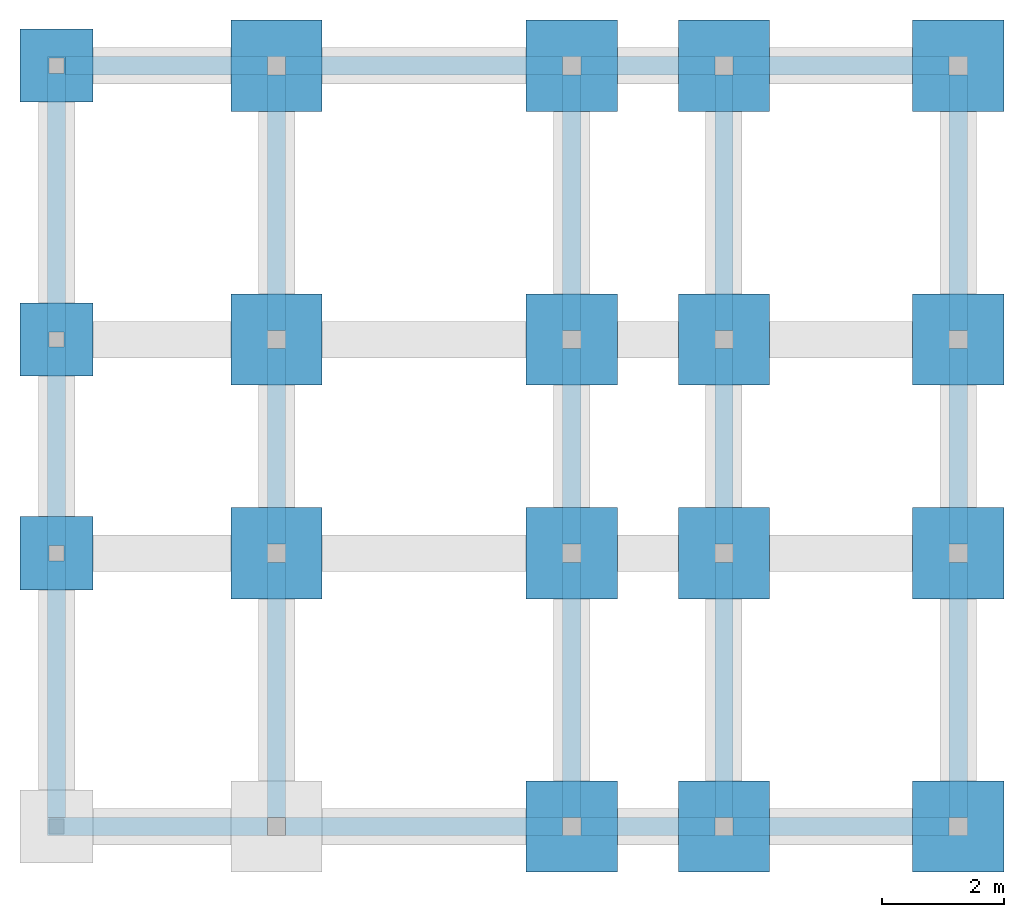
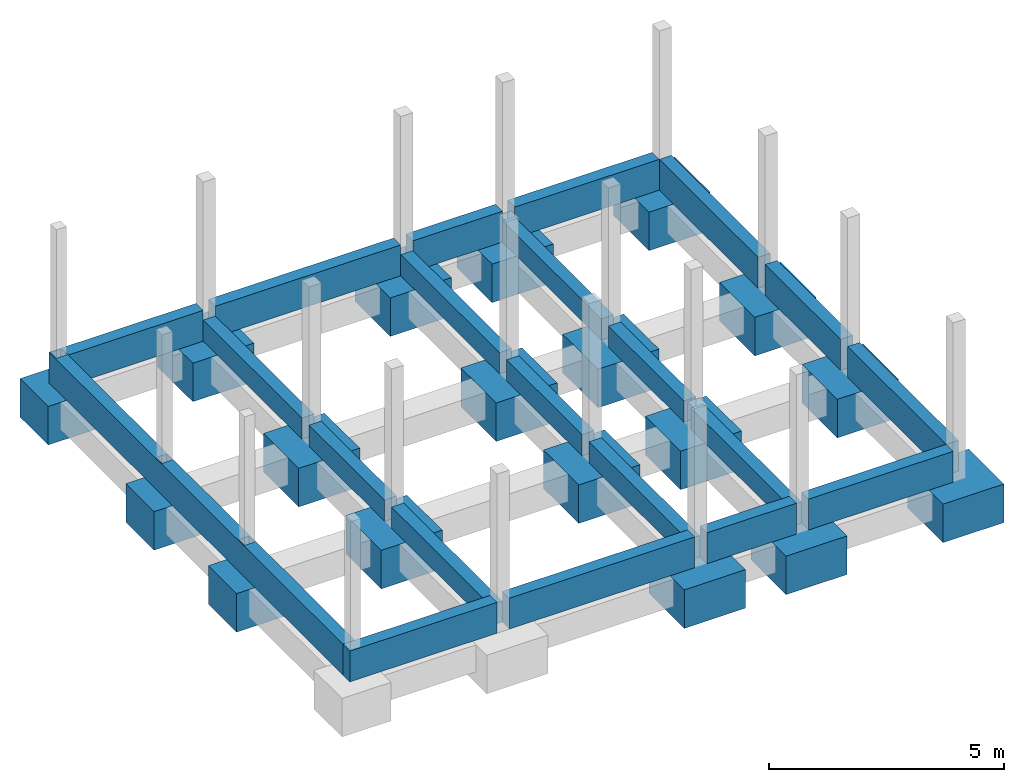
# One storey, part 2 of 2: 18 slabs, 7 walls, 17 openings.
"""IFC2X3 building model written with IfcOpenShell, lengths in metres."""

from ifc_helpers import new_model, entity, si_unit, converted_unit, derived_unit, direction, frame, frame_2d, origin, origin_2d_with_axis, place, context, subcontext, project, spatial, polyline, rectangle, extrude, clip, bounded_halfspace, material, layer, layer_set, layer_usage, type_object, element, save


model = new_model("IFC2X3")

# Units and contexts
model_context = context("Model", 3, precision=1e-05, world=origin(), true_north=direction((6.12303176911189e-17, 1.0)))
context_of_model = context(None, 3, precision=1e-05, world=origin(), true_north=direction((6.12303176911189e-17, 1.0)))
body_context = subcontext(model_context, "Body", "Model", "MODEL_VIEW")
ifc_project = project(units=[si_unit("LENGTHUNIT", "METRE"), si_unit("AREAUNIT", "SQUARE_METRE"), si_unit("VOLUMEUNIT", "CUBIC_METRE"), converted_unit("PLANEANGLEUNIT", "DEGREE", entity("IfcRatioMeasure", 0.0174532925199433), si_unit("PLANEANGLEUNIT", "RADIAN"), dimensions=[0, 0, 0, 0, 0, 0, 0]), si_unit("MASSUNIT", "GRAM", prefix="KILO"), si_unit("TIMEUNIT", "SECOND"), si_unit("FREQUENCYUNIT", "HERTZ"), si_unit("THERMODYNAMICTEMPERATUREUNIT", "DEGREE_CELSIUS"), derived_unit("THERMALTRANSMITTANCEUNIT", [(si_unit("MASSUNIT", "GRAM", prefix="KILO"), 1), (si_unit("THERMODYNAMICTEMPERATUREUNIT", "KELVIN"), -1), (si_unit("TIMEUNIT", "SECOND"), -3)]), derived_unit("VOLUMETRICFLOWRATEUNIT", [(si_unit("LENGTHUNIT", "METRE"), 3), (si_unit("TIMEUNIT", "SECOND"), -1)]), si_unit("ELECTRICCURRENTUNIT", "AMPERE"), si_unit("ELECTRICVOLTAGEUNIT", "VOLT"), si_unit("POWERUNIT", "WATT"), si_unit("FORCEUNIT", "NEWTON", prefix="KILO"), si_unit("ILLUMINANCEUNIT", "LUX"), si_unit("LUMINOUSFLUXUNIT", "LUMEN"), si_unit("LUMINOUSINTENSITYUNIT", "CANDELA"), si_unit("PRESSUREUNIT", "PASCAL")], contexts=[model_context, context_of_model])

# Site, building, storey
site_placement = place(None, origin())
site = spatial("IfcSite", under=ifc_project, at=site_placement, Name="Default", CompositionType="ELEMENT")
building_placement = place(site_placement, origin())
building = spatial("IfcBuilding", under=site, at=building_placement, CompositionType="ELEMENT")
storey_placement = place(building_placement, frame((0.0, 0.0, -0.68)))
storey = spatial("IfcBuildingStorey", under=building, at=storey_placement, Name="00.ES.CIMENTACIÓN", CompositionType="ELEMENT", Elevation=-0.68)

# Slabs
ifc_material_1 = material(Name="Hormigón - Hormigón moldeado in situ")
slab_1_placement = place(storey_placement, origin())
element("IfcSlab", 1, at=slab_1_placement, inside=storey, material=ifc_material_1, Name="Zapata-Rectangular:1500 x 1500 x 1000 mm", ObjectType="Zapata-Rectangular:1500 x 1500 x 1000 mm", PredefinedType="FLOOR", context=body_context, shape_type="SweptSolid", body=[
    extrude(rectangle(XDim=1.5, YDim=1.5, at=frame_2d((-2.22044604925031e-16, -1.0547118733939e-15), x_axis=(1.0, 0.0))), frame((4.21500000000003, 13.1, -1.0), z_axis=(0.0, 0.0, 1.0), x_axis=(-1.0, 0.0, 0.0)), (0.0, 0.0, 1.0), 1.0),
])
slab_2_placement = place(storey_placement, origin())
element("IfcSlab", 2, at=slab_2_placement, inside=storey, material=ifc_material_1, Name="Zapata-Rectangular:1500 x 1500 x 1000 mm", ObjectType="Zapata-Rectangular:1500 x 1500 x 1000 mm", PredefinedType="FLOOR", context=body_context, shape_type="SweptSolid", body=[
    extrude(rectangle(XDim=1.5, YDim=1.5, at=frame_2d((-1.0547118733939e-15, 1.0547118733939e-15), x_axis=(1.0, 0.0))), frame((9.065, 13.1, -1.0), z_axis=(0.0, 0.0, 1.0), x_axis=(-1.0, 0.0, 0.0)), (0.0, 0.0, 1.0), 1.0),
])
slab_3_placement = place(storey_placement, origin())
element("IfcSlab", 3, at=slab_3_placement, inside=storey, material=ifc_material_1, Name="Zapata-Rectangular:1500 x 1500 x 1000 mm", ObjectType="Zapata-Rectangular:1500 x 1500 x 1000 mm", PredefinedType="FLOOR", context=body_context, shape_type="SweptSolid", body=[
    extrude(rectangle(XDim=1.5, YDim=1.5, at=frame_2d((-1.0547118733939e-15, 1.0547118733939e-15), x_axis=(1.0, 0.0))), frame((11.565, 13.1, -1.0), z_axis=(0.0, 0.0, 1.0), x_axis=(-1.0, 0.0, 0.0)), (0.0, 0.0, 1.0), 1.0),
])
slab_4_placement = place(storey_placement, origin())
element("IfcSlab", 4, at=slab_4_placement, inside=storey, material=ifc_material_1, Name="Zapata-Rectangular:1500 x 1500 x 1000 mm", ObjectType="Zapata-Rectangular:1500 x 1500 x 1000 mm", PredefinedType="FLOOR", context=body_context, shape_type="SweptSolid", body=[
    extrude(rectangle(XDim=1.5, YDim=1.5, at=frame_2d((-1.0547118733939e-15, 1.0547118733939e-15), x_axis=(1.0, 0.0))), frame((15.415, 13.1, -1.0), z_axis=(0.0, 0.0, 1.0), x_axis=(-1.0, 0.0, 0.0)), (0.0, 0.0, 1.0), 1.0),
])
slab_5_placement = place(storey_placement, origin())
element("IfcSlab", 5, at=slab_5_placement, inside=storey, material=ifc_material_1, Name="Zapata-Rectangular:1500 x 1500 x 1000 mm", ObjectType="Zapata-Rectangular:1500 x 1500 x 1000 mm", PredefinedType="FLOOR", context=body_context, shape_type="SweptSolid", body=[
    extrude(rectangle(XDim=1.5, YDim=1.5, at=origin_2d_with_axis()), frame((4.21500000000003, 8.60000000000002, -1.0), z_axis=(0.0, 0.0, 1.0), x_axis=(-1.0, 0.0, 0.0)), (0.0, 0.0, 1.0), 1.0),
])
slab_6_placement = place(storey_placement, origin())
element("IfcSlab", 6, at=slab_6_placement, inside=storey, material=ifc_material_1, Name="Zapata-Rectangular:1500 x 1500 x 1000 mm", ObjectType="Zapata-Rectangular:1500 x 1500 x 1000 mm", PredefinedType="FLOOR", context=body_context, shape_type="SweptSolid", body=[
    extrude(rectangle(XDim=1.5, YDim=1.5, at=origin_2d_with_axis()), frame((9.065, 8.60000000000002, -1.0), z_axis=(0.0, 0.0, 1.0), x_axis=(-1.0, 0.0, 0.0)), (0.0, 0.0, 1.0), 1.0),
])
slab_7_placement = place(storey_placement, origin())
element("IfcSlab", 7, at=slab_7_placement, inside=storey, material=ifc_material_1, Name="Zapata-Rectangular:1500 x 1500 x 1000 mm", ObjectType="Zapata-Rectangular:1500 x 1500 x 1000 mm", PredefinedType="FLOOR", context=body_context, shape_type="SweptSolid", body=[
    extrude(rectangle(XDim=1.5, YDim=1.5, at=frame_2d((1.0547118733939e-15, 0.0), x_axis=(1.0, 0.0))), frame((11.565, 8.60000000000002, -1.0), z_axis=(0.0, 0.0, 1.0), x_axis=(-1.0, 0.0, 0.0)), (0.0, 0.0, 1.0), 1.0),
])
slab_8_placement = place(storey_placement, origin())
element("IfcSlab", 8, at=slab_8_placement, inside=storey, material=ifc_material_1, Name="Zapata-Rectangular:1500 x 1500 x 1000 mm", ObjectType="Zapata-Rectangular:1500 x 1500 x 1000 mm", PredefinedType="FLOOR", context=body_context, shape_type="SweptSolid", body=[
    extrude(rectangle(XDim=1.5, YDim=1.5, at=frame_2d((1.0547118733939e-15, 0.0), x_axis=(1.0, 0.0))), frame((15.415, 8.60000000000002, -1.0), z_axis=(0.0, 0.0, 1.0), x_axis=(-1.0, 0.0, 0.0)), (0.0, 0.0, 1.0), 1.0),
])
slab_9_placement = place(storey_placement, origin())
element("IfcSlab", 9, at=slab_9_placement, inside=storey, material=ifc_material_1, Name="Zapata-Rectangular:1500 x 1500 x 1000 mm", ObjectType="Zapata-Rectangular:1500 x 1500 x 1000 mm", PredefinedType="FLOOR", context=body_context, shape_type="SweptSolid", body=[
    extrude(rectangle(XDim=1.5, YDim=1.5, at=frame_2d((0.0, 2.77555756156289e-16), x_axis=(1.0, 0.0))), frame((4.21500000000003, 5.09006108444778, -1.0), z_axis=(0.0, 0.0, 1.0), x_axis=(-1.0, 0.0, 0.0)), (0.0, 0.0, 1.0), 1.0),
])
slab_10_placement = place(storey_placement, origin())
element("IfcSlab", 10, at=slab_10_placement, inside=storey, material=ifc_material_1, Name="Zapata-Rectangular:1500 x 1500 x 1000 mm", ObjectType="Zapata-Rectangular:1500 x 1500 x 1000 mm", PredefinedType="FLOOR", context=body_context, shape_type="SweptSolid", body=[
    extrude(rectangle(XDim=1.5, YDim=1.5, at=frame_2d((0.0, 2.77555756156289e-16), x_axis=(1.0, 0.0))), frame((9.065, 5.09006108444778, -1.0), z_axis=(0.0, 0.0, 1.0), x_axis=(-1.0, 0.0, 0.0)), (0.0, 0.0, 1.0), 1.0),
])
slab_11_placement = place(storey_placement, origin())
element("IfcSlab", 11, at=slab_11_placement, inside=storey, material=ifc_material_1, Name="Zapata-Rectangular:1500 x 1500 x 1000 mm", ObjectType="Zapata-Rectangular:1500 x 1500 x 1000 mm", PredefinedType="FLOOR", context=body_context, shape_type="SweptSolid", body=[
    extrude(rectangle(XDim=1.5, YDim=1.5, at=frame_2d((1.0547118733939e-15, 2.77555756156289e-16), x_axis=(1.0, 0.0))), frame((11.565, 5.09006108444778, -1.0), z_axis=(0.0, 0.0, 1.0), x_axis=(-1.0, 0.0, 0.0)), (0.0, 0.0, 1.0), 1.0),
])
slab_12_placement = place(storey_placement, origin())
element("IfcSlab", 12, at=slab_12_placement, inside=storey, material=ifc_material_1, Name="Zapata-Rectangular:1500 x 1500 x 1000 mm", ObjectType="Zapata-Rectangular:1500 x 1500 x 1000 mm", PredefinedType="FLOOR", context=body_context, shape_type="SweptSolid", body=[
    extrude(rectangle(XDim=1.5, YDim=1.5, at=frame_2d((1.0547118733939e-15, 2.77555756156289e-16), x_axis=(1.0, 0.0))), frame((15.415, 5.09006108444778, -1.0), z_axis=(0.0, 0.0, 1.0), x_axis=(-1.0, 0.0, 0.0)), (0.0, 0.0, 1.0), 1.0),
])
slab_13_placement = place(storey_placement, origin())
element("IfcSlab", 13, at=slab_13_placement, inside=storey, material=ifc_material_1, Name="Zapata-Rectangular:1500 x 1500 x 1000 mm", ObjectType="Zapata-Rectangular:1500 x 1500 x 1000 mm", PredefinedType="FLOOR", context=body_context, shape_type="SweptSolid", body=[
    extrude(rectangle(XDim=1.5, YDim=1.5, at=origin_2d_with_axis()), frame((9.065, 0.600000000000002, -1.0), z_axis=(0.0, 0.0, 1.0), x_axis=(-1.0, 0.0, 0.0)), (0.0, 0.0, 1.0), 1.0),
])
slab_14_placement = place(storey_placement, origin())
element("IfcSlab", 14, at=slab_14_placement, inside=storey, material=ifc_material_1, Name="Zapata-Rectangular:1500 x 1500 x 1000 mm", ObjectType="Zapata-Rectangular:1500 x 1500 x 1000 mm", PredefinedType="FLOOR", context=body_context, shape_type="SweptSolid", body=[
    extrude(rectangle(XDim=1.5, YDim=1.5, at=frame_2d((1.0547118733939e-15, 0.0), x_axis=(1.0, 0.0))), frame((11.565, 0.600000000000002, -1.0), z_axis=(0.0, 0.0, 1.0), x_axis=(-1.0, 0.0, 0.0)), (0.0, 0.0, 1.0), 1.0),
])
slab_15_placement = place(storey_placement, origin())
element("IfcSlab", 15, at=slab_15_placement, inside=storey, material=ifc_material_1, Name="Zapata-Rectangular:1500 x 1500 x 1000 mm", ObjectType="Zapata-Rectangular:1500 x 1500 x 1000 mm", PredefinedType="FLOOR", context=body_context, shape_type="SweptSolid", body=[
    extrude(rectangle(XDim=1.5, YDim=1.5, at=frame_2d((1.0547118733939e-15, 0.0), x_axis=(1.0, 0.0))), frame((15.415, 0.600000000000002, -1.0), z_axis=(0.0, 0.0, 1.0), x_axis=(-1.0, 0.0, 0.0)), (0.0, 0.0, 1.0), 1.0),
])
slab_16_placement = place(storey_placement, origin())
element("IfcSlab", 16, at=slab_16_placement, inside=storey, material=ifc_material_1, Name="Zapata-Rectangular:1200 x 1200 x 1000 mm", ObjectType="Zapata-Rectangular:1200 x 1200 x 1000 mm", PredefinedType="FLOOR", context=body_context, shape_type="SweptSolid", body=[
    extrude(rectangle(XDim=1.2, YDim=1.2, at=origin_2d_with_axis()), frame((0.600000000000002, 13.1, -1.0), z_axis=(0.0, 0.0, 1.0), x_axis=(-1.0, 0.0, 0.0)), (0.0, 0.0, 1.0), 1.0),
])
slab_17_placement = place(storey_placement, origin())
element("IfcSlab", 17, at=slab_17_placement, inside=storey, material=ifc_material_1, Name="Zapata-Rectangular:1200 x 1200 x 1000 mm", ObjectType="Zapata-Rectangular:1200 x 1200 x 1000 mm", PredefinedType="FLOOR", context=body_context, shape_type="SweptSolid", body=[
    extrude(rectangle(XDim=1.2, YDim=1.2, at=origin_2d_with_axis()), frame((0.600000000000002, 8.60000000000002, -1.0), z_axis=(0.0, 0.0, 1.0), x_axis=(-1.0, 0.0, 0.0)), (0.0, 0.0, 1.0), 1.0),
])
slab_18_placement = place(storey_placement, origin())
element("IfcSlab", 18, at=slab_18_placement, inside=storey, material=ifc_material_1, Name="Zapata-Rectangular:1200 x 1200 x 1000 mm", ObjectType="Zapata-Rectangular:1200 x 1200 x 1000 mm", PredefinedType="FLOOR", context=body_context, shape_type="SweptSolid", body=[
    extrude(rectangle(XDim=1.2, YDim=1.2, at=frame_2d((0.0, -2.77555756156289e-16), x_axis=(1.0, 0.0))), frame((0.600000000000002, 5.09006108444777, -1.0), z_axis=(0.0, 0.0, 1.0), x_axis=(-1.0, 0.0, 0.0)), (0.0, 0.0, 1.0), 1.0),
])

# Wall, openings
ifc_material_2 = material(Name="Hormigón, Moldeado in situ, gris")
ifc_layer = layer(ifc_material_2, 0.3)
ifc_layer_set = layer_set([ifc_layer], Name="Muro básico:Hormigón - 30 cm")
ifc_layer_usage_1 = layer_usage(ifc_layer_set, "AXIS2", "NEGATIVE", 0.15)
wall_type = type_object("IfcWallType", Name="Muro básico:Hormigón - 30 cm", PredefinedType="STANDARD", material=ifc_layer_set)
wall_1_placement = place(storey_placement, frame((15.265, 0.599999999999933, 0.0), z_axis=(0.0, 0.0, 1.0), x_axis=(-1.0, 0.0, 0.0)))
wall_1 = element("IfcWallStandardCase", 19, at=wall_1_placement, inside=storey, type_object=wall_type, material=ifc_layer_usage_1, Name="Muro básico:Hormigón - 30 cm", ObjectType="Muro básico:Hormigón - 30 cm", context=body_context, shape_type="Clipping", body=[
    clip(extrude(rectangle(XDim=14.815, YDim=0.3, at=frame_2d((7.40750000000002, -2.77555756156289e-17), x_axis=(-1.0, 0.0))), origin(), (0.0, 0.0, 1.0), 0.8), bounded_halfspace(frame((0.0, -0.15, 0.0), z_axis=(1.0, 0.0, 0.0), x_axis=(0.0, 0.0, -1.0)), True, frame((0.0, -0.15, 0.0), z_axis=(1.0, 0.0, 0.0), x_axis=(0.0, 0.0, -1.0)), polyline([(0.0, 0.0), (0.0, 0.3), (-0.8, 0.3), (-0.8, 0.0), (0.0, 0.0)]))),
])
opening_1_placement = place(storey_placement, frame((15.265, 0.599999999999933, 0.0), z_axis=(0.0, 0.0, 1.0), x_axis=(-1.0, 0.0, 0.0)))
element("IfcOpeningElement", 20, at=opening_1_placement, cuts=wall_1, Name="Muro básico:Hormigón - 30 cm:1", ObjectType="Opening", context=body_context, shape_type="SweptSolid", body=[
    extrude(rectangle(XDim=0.8, YDim=0.3, at=frame_2d((0.0, 4.16333634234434e-17), x_axis=(1.0, 0.0))), frame((3.85000000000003, 0.0, 0.4), z_axis=(-1.0, 0.0, 0.0), x_axis=(0.0, 0.0, 1.0)), (0.0, 0.0, 1.0), 0.300000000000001),
])
opening_2_placement = place(storey_placement, frame((15.265, 0.599999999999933, 0.0), z_axis=(0.0, 0.0, 1.0), x_axis=(-1.0, 0.0, 0.0)))
element("IfcOpeningElement", 21, at=opening_2_placement, cuts=wall_1, Name="Muro básico:Hormigón - 30 cm:2", ObjectType="Opening", context=body_context, shape_type="SweptSolid", body=[
    extrude(rectangle(XDim=0.8, YDim=0.3, at=origin_2d_with_axis()), frame((6.35000000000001, 0.0, 0.4), z_axis=(-1.0, 0.0, 0.0), x_axis=(0.0, 0.0, 1.0)), (0.0, 0.0, 1.0), 0.3),
])
opening_3_placement = place(storey_placement, frame((15.265, 0.599999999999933, 0.0), z_axis=(0.0, 0.0, 1.0), x_axis=(-1.0, 0.0, 0.0)))
element("IfcOpeningElement", 22, at=opening_3_placement, cuts=wall_1, Name="Muro básico:Hormigón - 30 cm:3", ObjectType="Opening", context=body_context, shape_type="SweptSolid", body=[
    extrude(rectangle(XDim=0.8, YDim=0.3, at=origin_2d_with_axis()), frame((11.2, 0.0, 0.4), z_axis=(-1.0, 0.0, 0.0), x_axis=(0.0, 0.0, 1.0)), (0.0, 0.0, 1.0), 0.3),
])

ifc_layer_usage_2 = layer_usage(ifc_layer_set, "AXIS2", "NEGATIVE", 0.15)
wall_2_placement = place(storey_placement, frame((0.599999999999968, 0.749999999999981, 0.0), z_axis=(0.0, 0.0, 1.0), x_axis=(0.0, 1.0, 0.0)))
wall_2 = element("IfcWallStandardCase", 23, at=wall_2_placement, inside=storey, type_object=wall_type, material=ifc_layer_usage_2, Name="Muro básico:Hormigón - 30 cm", ObjectType="Muro básico:Hormigón - 30 cm", context=body_context, shape_type="SweptSolid", body=[
    extrude(rectangle(XDim=12.5, YDim=0.3, at=frame_2d((6.25000000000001, 0.0), x_axis=(-1.0, 0.0))), origin(), (0.0, 0.0, 1.0), 0.8),
])
opening_4_placement = place(storey_placement, frame((0.599999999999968, 0.749999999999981, 0.0), z_axis=(0.0, 0.0, 1.0), x_axis=(0.0, 1.0, 0.0)))
element("IfcOpeningElement", 24, at=opening_4_placement, cuts=wall_2, Name="Muro básico:Hormigón - 30 cm:1", ObjectType="Opening", context=body_context, shape_type="SweptSolid", body=[
    extrude(rectangle(XDim=0.8, YDim=0.249999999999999, at=frame_2d((8.32667268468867e-17, 0.0), x_axis=(1.0, 0.0))), frame((4.34006108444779, 0.124999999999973, 0.4), z_axis=(0.0, -1.0, 0.0), x_axis=(0.0, 0.0, 1.0)), (0.0, 0.0, 1.0), 0.25),
])
opening_5_placement = place(storey_placement, frame((0.599999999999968, 0.749999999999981, 0.0), z_axis=(0.0, 0.0, 1.0), x_axis=(0.0, 1.0, 0.0)))
element("IfcOpeningElement", 25, at=opening_5_placement, cuts=wall_2, Name="Muro básico:Hormigón - 30 cm:2", ObjectType="Opening", context=body_context, shape_type="SweptSolid", body=[
    extrude(rectangle(XDim=0.8, YDim=0.249999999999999, at=frame_2d((8.32667268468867e-17, 0.0), x_axis=(1.0, 0.0))), frame((7.85000000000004, 0.124999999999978, 0.4), z_axis=(0.0, -1.0, 0.0), x_axis=(0.0, 0.0, 1.0)), (0.0, 0.0, 1.0), 0.25),
])
opening_6_placement = place(storey_placement, frame((0.599999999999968, 0.749999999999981, 0.0), z_axis=(0.0, 0.0, 1.0), x_axis=(0.0, 1.0, 0.0)))
element("IfcOpeningElement", 26, at=opening_6_placement, cuts=wall_2, Name="Muro básico:Hormigón - 30 cm:3", ObjectType="Opening", context=body_context, shape_type="SweptSolid", body=[
    extrude(rectangle(XDim=0.8, YDim=0.249999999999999, at=frame_2d((8.32667268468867e-17, 0.0), x_axis=(1.0, 0.0))), frame((12.35, 0.124999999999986, 0.4), z_axis=(0.0, -1.0, 0.0), x_axis=(0.0, 0.0, 1.0)), (0.0, 0.0, 1.0), 0.25),
])

ifc_layer_usage_3 = layer_usage(ifc_layer_set, "AXIS2", "NEGATIVE", 0.15)
wall_3_placement = place(storey_placement, frame((0.749999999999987, 13.1, 0.0)))
wall_3 = element("IfcWallStandardCase", 27, at=wall_3_placement, inside=storey, type_object=wall_type, material=ifc_layer_usage_3, Name="Muro básico:Hormigón - 30 cm", ObjectType="Muro básico:Hormigón - 30 cm", context=body_context, shape_type="Clipping", body=[
    clip(extrude(rectangle(XDim=14.515, YDim=0.300000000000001, at=frame_2d((7.25750000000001, -4.85722573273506e-16), x_axis=(-1.0, 0.0))), origin(), (0.0, 0.0, 1.0), 0.8), bounded_halfspace(frame((14.515, -0.150000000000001, 0.8), z_axis=(-1.0, 0.0, 0.0), x_axis=(0.0, 0.0, -1.0)), True, frame((14.515, -0.150000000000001, 0.8), z_axis=(-1.0, 0.0, 0.0), x_axis=(0.0, 0.0, -1.0)), polyline([(0.0, 0.0), (0.0, -0.300000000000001), (0.8, -0.300000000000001), (0.8, 0.0), (0.0, 0.0)]))),
])
opening_7_placement = place(storey_placement, frame((0.749999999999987, 13.1, 0.0)))
element("IfcOpeningElement", 28, at=opening_7_placement, cuts=wall_3, Name="Muro básico:Hormigón - 30 cm:1", ObjectType="Opening", context=body_context, shape_type="SweptSolid", body=[
    extrude(rectangle(XDim=0.8, YDim=0.300000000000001, at=origin_2d_with_axis()), frame((3.31500000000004, 0.0, 0.4), z_axis=(1.0, 0.0, 0.0), x_axis=(0.0, 0.0, -1.0)), (0.0, 0.0, 1.0), 0.3),
])
opening_8_placement = place(storey_placement, frame((0.749999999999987, 13.1, 0.0)))
element("IfcOpeningElement", 29, at=opening_8_placement, cuts=wall_3, Name="Muro básico:Hormigón - 30 cm:2", ObjectType="Opening", context=body_context, shape_type="SweptSolid", body=[
    extrude(rectangle(XDim=0.8, YDim=0.300000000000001, at=origin_2d_with_axis()), frame((8.16500000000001, 0.0, 0.4), z_axis=(1.0, 0.0, 0.0), x_axis=(0.0, 0.0, -1.0)), (0.0, 0.0, 1.0), 0.3),
])
opening_9_placement = place(storey_placement, frame((0.749999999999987, 13.1, 0.0)))
element("IfcOpeningElement", 30, at=opening_9_placement, cuts=wall_3, Name="Muro básico:Hormigón - 30 cm:3", ObjectType="Opening", context=body_context, shape_type="SweptSolid", body=[
    extrude(rectangle(XDim=0.8, YDim=0.300000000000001, at=origin_2d_with_axis()), frame((10.665, 0.0, 0.4), z_axis=(1.0, 0.0, 0.0), x_axis=(0.0, 0.0, -1.0)), (0.0, 0.0, 1.0), 0.300000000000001),
])

ifc_layer_usage_4 = layer_usage(ifc_layer_set, "AXIS2", "NEGATIVE", 0.15)
wall_4_placement = place(storey_placement, frame((15.415, 12.95, 0.0), z_axis=(0.0, 0.0, 1.0), x_axis=(0.0, -1.0, 0.0)))
wall_4 = element("IfcWallStandardCase", 31, at=wall_4_placement, inside=storey, type_object=wall_type, material=ifc_layer_usage_4, Name="Muro básico:Hormigón - 30 cm", ObjectType="Muro básico:Hormigón - 30 cm", context=body_context, shape_type="SweptSolid", body=[
    extrude(rectangle(XDim=12.2, YDim=0.300000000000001, at=frame_2d((6.10000000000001, -2.35922392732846e-16), x_axis=(-1.0, 0.0))), origin(), (0.0, 0.0, 1.0), 0.8),
])
opening_10_placement = place(storey_placement, frame((15.415, 12.95, 0.0), z_axis=(0.0, 0.0, 1.0), x_axis=(0.0, -1.0, 0.0)))
element("IfcOpeningElement", 32, at=opening_10_placement, cuts=wall_4, Name="Muro básico:Hormigón - 30 cm:1", ObjectType="Opening", context=body_context, shape_type="SweptSolid", body=[
    extrude(rectangle(XDim=0.8, YDim=0.300000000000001, at=origin_2d_with_axis()), frame((4.49999999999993, 0.0, 0.4), z_axis=(-1.0, 0.0, 0.0), x_axis=(0.0, 0.0, 1.0)), (0.0, 0.0, 1.0), 0.299999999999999),
])
opening_11_placement = place(storey_placement, frame((15.415, 12.95, 0.0), z_axis=(0.0, 0.0, 1.0), x_axis=(0.0, -1.0, 0.0)))
element("IfcOpeningElement", 33, at=opening_11_placement, cuts=wall_4, Name="Muro básico:Hormigón - 30 cm:2", ObjectType="Opening", context=body_context, shape_type="SweptSolid", body=[
    extrude(rectangle(XDim=0.8, YDim=0.300000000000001, at=origin_2d_with_axis()), frame((8.00993891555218, 0.0, 0.4), z_axis=(-1.0, 0.0, 0.0), x_axis=(0.0, 0.0, 1.0)), (0.0, 0.0, 1.0), 0.299999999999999),
])

ifc_layer_usage_5 = layer_usage(ifc_layer_set, "AXIS2", "NEGATIVE", 0.15)
wall_5_placement = place(storey_placement, frame((11.565, 0.749999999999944, 0.0), z_axis=(0.0, 0.0, 1.0), x_axis=(0.0, 1.0, 0.0)))
wall_5 = element("IfcWallStandardCase", 34, at=wall_5_placement, inside=storey, type_object=wall_type, material=ifc_layer_usage_5, Name="Muro básico:Hormigón - 30 cm", ObjectType="Muro básico:Hormigón - 30 cm", context=body_context, shape_type="SweptSolid", body=[
    extrude(rectangle(XDim=12.2, YDim=0.300000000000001, at=frame_2d((6.10000000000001, -9.71445146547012e-17), x_axis=(-1.0, 0.0))), origin(), (0.0, 0.0, 1.0), 0.55),
])
opening_12_placement = place(storey_placement, frame((11.565, 0.749999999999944, 0.0), z_axis=(0.0, 0.0, 1.0), x_axis=(0.0, 1.0, 0.0)))
element("IfcOpeningElement", 35, at=opening_12_placement, cuts=wall_5, Name="Muro básico:Hormigón - 30 cm:1", ObjectType="Opening", context=body_context, shape_type="SweptSolid", body=[
    extrude(rectangle(XDim=0.55, YDim=0.300000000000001, at=frame_2d((0.0, 1.08246744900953e-15), x_axis=(1.0, 0.0))), frame((4.19006108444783, 0.0, 0.275), z_axis=(1.0, 0.0, 0.0), x_axis=(0.0, 0.0, -1.0)), (0.0, 0.0, 1.0), 0.299999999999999),
])
opening_13_placement = place(storey_placement, frame((11.565, 0.749999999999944, 0.0), z_axis=(0.0, 0.0, 1.0), x_axis=(0.0, 1.0, 0.0)))
element("IfcOpeningElement", 36, at=opening_13_placement, cuts=wall_5, Name="Muro básico:Hormigón - 30 cm:2", ObjectType="Opening", context=body_context, shape_type="SweptSolid", body=[
    extrude(rectangle(XDim=0.55, YDim=0.300000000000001, at=origin_2d_with_axis()), frame((7.70000000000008, 0.0, 0.275), z_axis=(1.0, 0.0, 0.0), x_axis=(0.0, 0.0, -1.0)), (0.0, 0.0, 1.0), 0.299999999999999),
])

ifc_layer_usage_6 = layer_usage(ifc_layer_set, "AXIS2", "NEGATIVE", 0.15)
wall_6_placement = place(storey_placement, frame((9.06499999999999, 0.749999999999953, 0.0), z_axis=(0.0, 0.0, 1.0), x_axis=(0.0, 1.0, 0.0)))
wall_6 = element("IfcWallStandardCase", 37, at=wall_6_placement, inside=storey, type_object=wall_type, material=ifc_layer_usage_6, Name="Muro básico:Hormigón - 30 cm", ObjectType="Muro básico:Hormigón - 30 cm", context=body_context, shape_type="SweptSolid", body=[
    extrude(rectangle(XDim=12.2, YDim=0.300000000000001, at=frame_2d((6.10000000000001, -1.11022302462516e-16), x_axis=(-1.0, 0.0))), origin(), (0.0, 0.0, 1.0), 0.55),
])
opening_14_placement = place(storey_placement, frame((9.06499999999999, 0.749999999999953, 0.0), z_axis=(0.0, 0.0, 1.0), x_axis=(0.0, 1.0, 0.0)))
element("IfcOpeningElement", 38, at=opening_14_placement, cuts=wall_6, Name="Muro básico:Hormigón - 30 cm:1", ObjectType="Opening", context=body_context, shape_type="SweptSolid", body=[
    extrude(rectangle(XDim=0.55, YDim=0.3, at=frame_2d((0.0, 5.41233724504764e-16), x_axis=(1.0, 0.0))), frame((4.19006108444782, 0.0, 0.275), z_axis=(1.0, 0.0, 0.0), x_axis=(0.0, 0.0, -1.0)), (0.0, 0.0, 1.0), 0.299999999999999),
])
opening_15_placement = place(storey_placement, frame((9.06499999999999, 0.749999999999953, 0.0), z_axis=(0.0, 0.0, 1.0), x_axis=(0.0, 1.0, 0.0)))
element("IfcOpeningElement", 39, at=opening_15_placement, cuts=wall_6, Name="Muro básico:Hormigón - 30 cm:2", ObjectType="Opening", context=body_context, shape_type="SweptSolid", body=[
    extrude(rectangle(XDim=0.55, YDim=0.3, at=frame_2d((0.0, 5.41233724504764e-16), x_axis=(1.0, 0.0))), frame((7.70000000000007, 0.0, 0.275), z_axis=(1.0, 0.0, 0.0), x_axis=(0.0, 0.0, -1.0)), (0.0, 0.0, 1.0), 0.299999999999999),
])

ifc_layer_usage_7 = layer_usage(ifc_layer_set, "AXIS2", "NEGATIVE", 0.15)
wall_7_placement = place(storey_placement, frame((4.21500000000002, 0.749999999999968, 0.0), z_axis=(0.0, 0.0, 1.0), x_axis=(0.0, 1.0, 0.0)))
wall_7 = element("IfcWallStandardCase", 40, at=wall_7_placement, inside=storey, type_object=wall_type, material=ifc_layer_usage_7, Name="Muro básico:Hormigón - 30 cm", ObjectType="Muro básico:Hormigón - 30 cm", context=body_context, shape_type="SweptSolid", body=[
    extrude(rectangle(XDim=12.2, YDim=0.3, at=frame_2d((6.10000000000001, -1.11022302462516e-16), x_axis=(-1.0, 0.0))), origin(), (0.0, 0.0, 1.0), 0.55),
])
opening_16_placement = place(storey_placement, frame((4.21500000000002, 0.749999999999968, 0.0), z_axis=(0.0, 0.0, 1.0), x_axis=(0.0, 1.0, 0.0)))
element("IfcOpeningElement", 41, at=opening_16_placement, cuts=wall_7, Name="Muro básico:Hormigón - 30 cm:1", ObjectType="Opening", context=body_context, shape_type="SweptSolid", body=[
    extrude(rectangle(XDim=0.55, YDim=0.3, at=origin_2d_with_axis()), frame((4.19006108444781, 0.0, 0.275), z_axis=(1.0, 0.0, 0.0), x_axis=(0.0, 0.0, -1.0)), (0.0, 0.0, 1.0), 0.299999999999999),
])
opening_17_placement = place(storey_placement, frame((4.21500000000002, 0.749999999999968, 0.0), z_axis=(0.0, 0.0, 1.0), x_axis=(0.0, 1.0, 0.0)))
element("IfcOpeningElement", 42, at=opening_17_placement, cuts=wall_7, Name="Muro básico:Hormigón - 30 cm:2", ObjectType="Opening", context=body_context, shape_type="SweptSolid", body=[
    extrude(rectangle(XDim=0.55, YDim=0.3, at=origin_2d_with_axis()), frame((7.70000000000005, 0.0, 0.275), z_axis=(1.0, 0.0, 0.0), x_axis=(0.0, 0.0, -1.0)), (0.0, 0.0, 1.0), 0.299999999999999),
])

save(model, "model.ifc")
